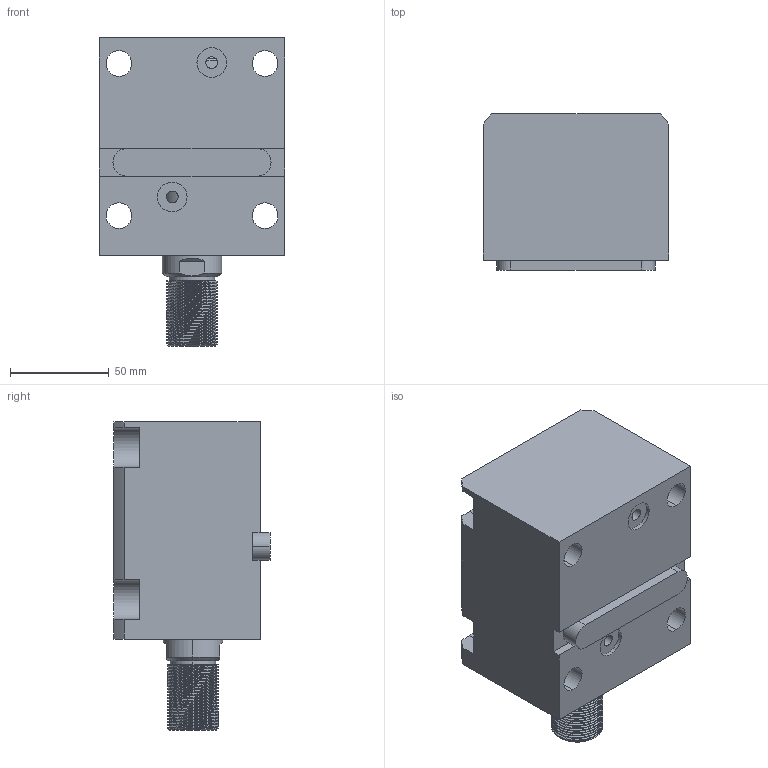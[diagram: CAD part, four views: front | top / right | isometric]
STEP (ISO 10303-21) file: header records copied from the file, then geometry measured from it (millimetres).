
FILE_DESCRIPTION (( 'STEP AP203' ), '1' );
FILE_NAME ('CHTB-LAM50-50W.STEP', '2018-05-23T10:35:13', ( '' ), ( '' ), 'SwSTEP 2.0', 'SolidWorks 2015', '' );
FILE_SCHEMA (( 'CONFIG_CONTROL_DESIGN' ));
Length unit declared in the file: millimetre
Products named in the file (4): CHTB-LAM50-50W; 活塞杆LAM50-50W; 掛极LAM50-50W; CHTM-SDMA50QG
Assembly tree (3 placements, depth 2):
  CHTB-LAM50-50W
    掛极LAM50-50W
    CHTM-SDMA50QG
    活塞杆LAM50-50W
Bounding box: 94 x 79 x 156 mm (x, y, z)
Volume: 673745.9 mm3; surface area: 115418.3 mm2
Topology: 3 solids, 3 shells, 234 faces, 652 edges, 436 vertices
Faces by surface type: cylinder 136, plane 53, bspline 16, torus 16, cone 13
Entity records: 14802 total; most frequent: CARTESIAN_POINT 8867, ORIENTED_EDGE 1296, DIRECTION 1023, EDGE_CURVE 648, VERTEX_POINT 436, AXIS2_PLACEMENT_3D 395, EDGE_LOOP 264, FACE_OUTER_BOUND 234
